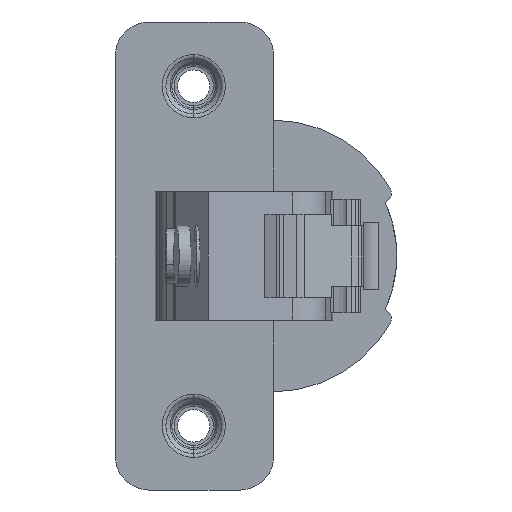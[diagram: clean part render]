
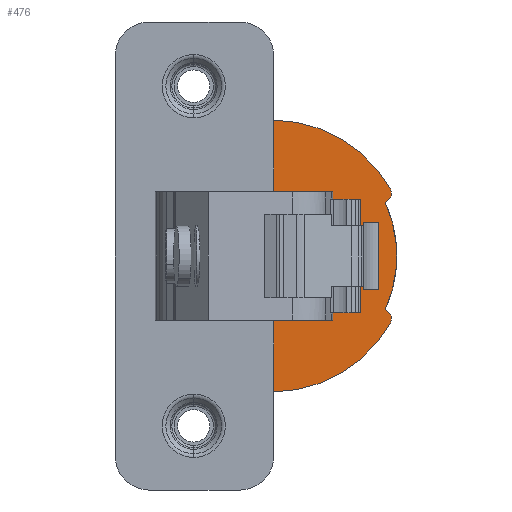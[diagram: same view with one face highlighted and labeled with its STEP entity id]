
A CAD part, left-side view. The second image highlights one B-rep face of the part: STEP entity #476.
In plain terms, the highlighted planar face has unit normal (-1, 0, 0).
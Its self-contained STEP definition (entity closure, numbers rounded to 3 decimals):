
#172 = AXIS2_PLACEMENT_3D ( 'NONE', #5742, #2717, #1032 ) ;
#225 = DIRECTION ( 'NONE',  ( -1., 0., 0. ) ) ;
#341 = VERTEX_POINT ( 'NONE', #7432 ) ;
#352 = LINE ( 'NONE', #2742, #6665 ) ;
#445 = VECTOR ( 'NONE', #6621, 1000. ) ;
#462 = DIRECTION ( 'NONE',  ( 0., 0., 1. ) ) ;
#476 = ADVANCED_FACE ( 'NONE', ( #5851, #549 ), #4637, .T. ) ;
#487 = CARTESIAN_POINT ( 'NONE',  ( -8.3, -19.903, -17.998 ) ) ;
#549 = FACE_BOUND ( 'NONE', #7688, .T. ) ;
#606 = AXIS2_PLACEMENT_3D ( 'NONE', #7149, #2904, #5374 ) ;
#688 = DIRECTION ( 'NONE',  ( 0., 1., 0. ) ) ;
#767 = AXIS2_PLACEMENT_3D ( 'NONE', #4958, #837, #7364 ) ;
#810 = LINE ( 'NONE', #2505, #5175 ) ;
#837 = DIRECTION ( 'NONE',  ( 1., 0., 0. ) ) ;
#979 = VERTEX_POINT ( 'NONE', #487 ) ;
#1032 = DIRECTION ( 'NONE',  ( 0., 0., 1. ) ) ;
#1169 = ORIENTED_EDGE ( 'NONE', *, *, #5807, .F. ) ;
#1338 = DIRECTION ( 'NONE',  ( 0., 0., -1. ) ) ;
#1436 = VERTEX_POINT ( 'NONE', #7703 ) ;
#1439 = CIRCLE ( 'NONE', #172, 17.4 ) ;
#1512 = ORIENTED_EDGE ( 'NONE', *, *, #7412, .T. ) ;
#1556 = EDGE_CURVE ( 'NONE', #3826, #2589, #3139, .T. ) ;
#1612 = CARTESIAN_POINT ( 'NONE',  ( -8.3, -19.667, 5.55 ) ) ;
#1640 = CIRCLE ( 'NONE', #4394, 18. ) ;
#1652 = VERTEX_POINT ( 'NONE', #2708 ) ;
#1739 = EDGE_CURVE ( 'NONE', #3016, #6585, #352, .T. ) ;
#1764 = CARTESIAN_POINT ( 'NONE',  ( -8.3, -33.751, -5.75 ) ) ;
#1970 = CARTESIAN_POINT ( 'NONE',  ( -8.3, -19.667, 0. ) ) ;
#2044 = EDGE_CURVE ( 'NONE', #6297, #6426, #810, .T. ) ;
#2083 = EDGE_CURVE ( 'NONE', #341, #4122, #7186, .T. ) ;
#2102 = EDGE_CURVE ( 'NONE', #7677, #1436, #6387, .T. ) ;
#2163 = LINE ( 'NONE', #1612, #3581 ) ;
#2170 = LINE ( 'NONE', #3457, #6390 ) ;
#2248 = DIRECTION ( 'NONE',  ( 0., -1., 0. ) ) ;
#2257 = DIRECTION ( 'NONE',  ( 0., 0., 1. ) ) ;
#2282 = VERTEX_POINT ( 'NONE', #4696 ) ;
#2352 = LINE ( 'NONE', #3085, #4589 ) ;
#2505 = CARTESIAN_POINT ( 'NONE',  ( -8.3, -19.667, 4.5 ) ) ;
#2589 = VERTEX_POINT ( 'NONE', #4458 ) ;
#2708 = CARTESIAN_POINT ( 'NONE',  ( -8.3, -19.903, 17.998 ) ) ;
#2717 = DIRECTION ( 'NONE',  ( 1., 0., 0. ) ) ;
#2742 = CARTESIAN_POINT ( 'NONE',  ( -8.3, -19.867, 0. ) ) ;
#2761 = CARTESIAN_POINT ( 'NONE',  ( -8.3, -21.271, 5.55 ) ) ;
#2769 = CARTESIAN_POINT ( 'NONE',  ( -8.3, -19.867, 0. ) ) ;
#2779 = CARTESIAN_POINT ( 'NONE',  ( -8.3, -19.867, 5.55 ) ) ;
#2904 = DIRECTION ( 'NONE',  ( -1., 0., 0. ) ) ;
#2935 = EDGE_CURVE ( 'NONE', #2282, #5501, #2170, .T. ) ;
#3016 = VERTEX_POINT ( 'NONE', #2779 ) ;
#3085 = CARTESIAN_POINT ( 'NONE',  ( -8.3, -19.667, -5.55 ) ) ;
#3139 = LINE ( 'NONE', #7460, #5900 ) ;
#3193 = AXIS2_PLACEMENT_3D ( 'NONE', #7523, #5725, #5758 ) ;
#3231 = EDGE_CURVE ( 'NONE', #979, #3470, #1640, .T. ) ;
#3314 = VERTEX_POINT ( 'NONE', #3997 ) ;
#3317 = VECTOR ( 'NONE', #2257, 1000. ) ;
#3457 = CARTESIAN_POINT ( 'NONE',  ( -8.3, -19.667, -4.5 ) ) ;
#3470 = VERTEX_POINT ( 'NONE', #5991 ) ;
#3581 = VECTOR ( 'NONE', #6317, 1000. ) ;
#3826 = VERTEX_POINT ( 'NONE', #2761 ) ;
#3871 = CARTESIAN_POINT ( 'NONE',  ( -8.3, -31.783, 4.5 ) ) ;
#3900 = ORIENTED_EDGE ( 'NONE', *, *, #4668, .T. ) ;
#3976 = CARTESIAN_POINT ( 'NONE',  ( -8.3, -31.783, -5.75 ) ) ;
#3997 = CARTESIAN_POINT ( 'NONE',  ( -8.3, -34.628, -7.154 ) ) ;
#4009 = ORIENTED_EDGE ( 'NONE', *, *, #4708, .T. ) ;
#4110 = LINE ( 'NONE', #1764, #445 ) ;
#4122 = VERTEX_POINT ( 'NONE', #4565 ) ;
#4234 = ORIENTED_EDGE ( 'NONE', *, *, #2935, .F. ) ;
#4375 = EDGE_CURVE ( 'NONE', #979, #7677, #7380, .T. ) ;
#4394 = AXIS2_PLACEMENT_3D ( 'NONE', #1970, #225, #7379 ) ;
#4415 = ORIENTED_EDGE ( 'NONE', *, *, #3231, .T. ) ;
#4458 = CARTESIAN_POINT ( 'NONE',  ( -8.3, -21.271, -5.55 ) ) ;
#4554 = DIRECTION ( 'NONE',  ( 0., -1., 0. ) ) ;
#4565 = CARTESIAN_POINT ( 'NONE',  ( -8.3, -34.628, 7.154 ) ) ;
#4572 = EDGE_CURVE ( 'NONE', #3016, #3826, #2163, .T. ) ;
#4589 = VECTOR ( 'NONE', #688, 1000. ) ;
#4598 = DIRECTION ( 'NONE',  ( 0., 0., 1. ) ) ;
#4637 = PLANE ( 'NONE',  #606 ) ;
#4651 = CARTESIAN_POINT ( 'NONE',  ( -8.3, -19.867, 17.998 ) ) ;
#4668 = EDGE_CURVE ( 'NONE', #6297, #5501, #4110, .T. ) ;
#4696 = CARTESIAN_POINT ( 'NONE',  ( -8.3, -31.783, -4.5 ) ) ;
#4708 = EDGE_CURVE ( 'NONE', #2589, #1436, #2352, .T. ) ;
#4943 = VECTOR ( 'NONE', #2248, 1000. ) ;
#4958 = CARTESIAN_POINT ( 'NONE',  ( -8.3, -34.273, -8.3 ) ) ;
#5021 = DIRECTION ( 'NONE',  ( 0., 1., 0. ) ) ;
#5115 = LINE ( 'NONE', #3976, #3317 ) ;
#5129 = ORIENTED_EDGE ( 'NONE', *, *, #5818, .T. ) ;
#5130 = DIRECTION ( 'NONE',  ( 0., 0., 1. ) ) ;
#5175 = VECTOR ( 'NONE', #5605, 1000. ) ;
#5194 = ORIENTED_EDGE ( 'NONE', *, *, #1739, .F. ) ;
#5352 = CARTESIAN_POINT ( 'NONE',  ( -8.3, -33.751, -4.5 ) ) ;
#5374 = DIRECTION ( 'NONE',  ( 0., 0., 1. ) ) ;
#5412 = EDGE_LOOP ( 'NONE', ( #5623, #5908, #4415, #7563, #1169, #6720, #1512, #7267, #5194, #7561, #5443, #4009 ) ) ;
#5443 = ORIENTED_EDGE ( 'NONE', *, *, #1556, .T. ) ;
#5501 = VERTEX_POINT ( 'NONE', #5352 ) ;
#5532 = CIRCLE ( 'NONE', #6542, 18. ) ;
#5605 = DIRECTION ( 'NONE',  ( 0., 1., 0. ) ) ;
#5623 = ORIENTED_EDGE ( 'NONE', *, *, #2102, .F. ) ;
#5658 = CIRCLE ( 'NONE', #767, 1.2 ) ;
#5688 = CARTESIAN_POINT ( 'NONE',  ( -8.3, -19.667, -17.998 ) ) ;
#5725 = DIRECTION ( 'NONE',  ( 1., 0., 0. ) ) ;
#5742 = CARTESIAN_POINT ( 'NONE',  ( -8.3, -18.767, 0. ) ) ;
#5758 = DIRECTION ( 'NONE',  ( 0., 0., -1. ) ) ;
#5771 = LINE ( 'NONE', #6994, #4943 ) ;
#5807 = EDGE_CURVE ( 'NONE', #4122, #3314, #1439, .T. ) ;
#5818 = EDGE_CURVE ( 'NONE', #2282, #6426, #5115, .T. ) ;
#5851 = FACE_OUTER_BOUND ( 'NONE', #5412, .T. ) ;
#5900 = VECTOR ( 'NONE', #1338, 1000. ) ;
#5908 = ORIENTED_EDGE ( 'NONE', *, *, #4375, .F. ) ;
#5928 = VECTOR ( 'NONE', #5130, 1000. ) ;
#5970 = VECTOR ( 'NONE', #5021, 1000. ) ;
#5991 = CARTESIAN_POINT ( 'NONE',  ( -8.3, -35.317, -8.893 ) ) ;
#6144 = EDGE_CURVE ( 'NONE', #6585, #1652, #5771, .T. ) ;
#6197 = ORIENTED_EDGE ( 'NONE', *, *, #2044, .F. ) ;
#6297 = VERTEX_POINT ( 'NONE', #7107 ) ;
#6317 = DIRECTION ( 'NONE',  ( 0., -1., 0. ) ) ;
#6364 = CARTESIAN_POINT ( 'NONE',  ( -8.3, -19.667, 0. ) ) ;
#6387 = LINE ( 'NONE', #2769, #5928 ) ;
#6390 = VECTOR ( 'NONE', #4554, 1000. ) ;
#6426 = VERTEX_POINT ( 'NONE', #3871 ) ;
#6542 = AXIS2_PLACEMENT_3D ( 'NONE', #6364, #7658, #4598 ) ;
#6585 = VERTEX_POINT ( 'NONE', #4651 ) ;
#6621 = DIRECTION ( 'NONE',  ( 0., 0., -1. ) ) ;
#6665 = VECTOR ( 'NONE', #462, 1000. ) ;
#6720 = ORIENTED_EDGE ( 'NONE', *, *, #2083, .F. ) ;
#6886 = EDGE_CURVE ( 'NONE', #3314, #3470, #5658, .T. ) ;
#6994 = CARTESIAN_POINT ( 'NONE',  ( -8.3, -19.667, 17.998 ) ) ;
#7107 = CARTESIAN_POINT ( 'NONE',  ( -8.3, -33.751, 4.5 ) ) ;
#7149 = CARTESIAN_POINT ( 'NONE',  ( -8.3, -19.667, 0. ) ) ;
#7186 = CIRCLE ( 'NONE', #3193, 1.2 ) ;
#7267 = ORIENTED_EDGE ( 'NONE', *, *, #6144, .F. ) ;
#7343 = CARTESIAN_POINT ( 'NONE',  ( -8.3, -19.867, -17.998 ) ) ;
#7364 = DIRECTION ( 'NONE',  ( 0., 0., 1. ) ) ;
#7379 = DIRECTION ( 'NONE',  ( 0., 0., 1. ) ) ;
#7380 = LINE ( 'NONE', #5688, #5970 ) ;
#7412 = EDGE_CURVE ( 'NONE', #341, #1652, #5532, .T. ) ;
#7432 = CARTESIAN_POINT ( 'NONE',  ( -8.3, -35.317, 8.893 ) ) ;
#7460 = CARTESIAN_POINT ( 'NONE',  ( -8.3, -21.271, 0. ) ) ;
#7523 = CARTESIAN_POINT ( 'NONE',  ( -8.3, -34.273, 8.3 ) ) ;
#7561 = ORIENTED_EDGE ( 'NONE', *, *, #4572, .T. ) ;
#7563 = ORIENTED_EDGE ( 'NONE', *, *, #6886, .F. ) ;
#7658 = DIRECTION ( 'NONE',  ( -1., 0., 0. ) ) ;
#7677 = VERTEX_POINT ( 'NONE', #7343 ) ;
#7688 = EDGE_LOOP ( 'NONE', ( #5129, #6197, #3900, #4234 ) ) ;
#7703 = CARTESIAN_POINT ( 'NONE',  ( -8.3, -19.867, -5.55 ) ) ;
